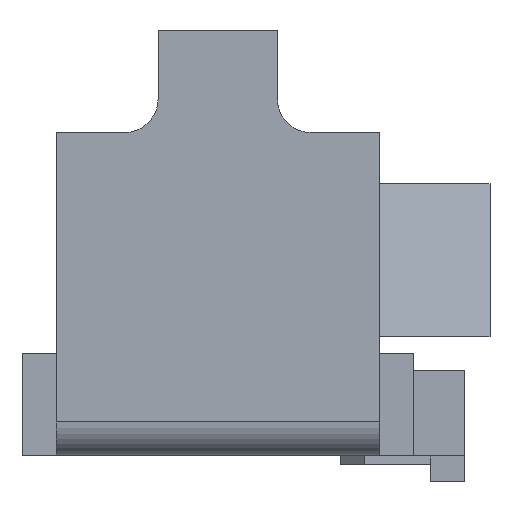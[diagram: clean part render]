
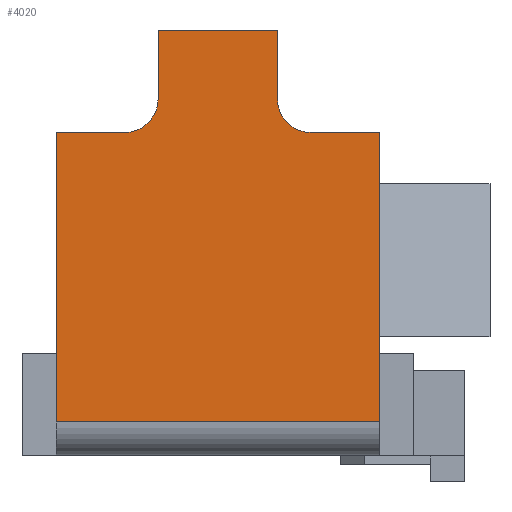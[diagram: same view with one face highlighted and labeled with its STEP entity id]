
A CAD part, front view. The second image highlights one B-rep face of the part: STEP entity #4020.
In plain terms, the highlighted planar face has unit normal (0, -1, 0).
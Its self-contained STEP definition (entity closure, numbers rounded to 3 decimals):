
#22 = LINE ( 'NONE', #2968, #1862 ) ;
#39 = EDGE_CURVE ( 'NONE', #403, #1292, #1104, .T. ) ;
#48 = VECTOR ( 'NONE', #306, 1000. ) ;
#165 = DIRECTION ( 'NONE',  ( 1., 0., 0. ) ) ;
#183 = CIRCLE ( 'NONE', #1349, 2. ) ;
#226 = DIRECTION ( 'NONE',  ( 0., 0., 1. ) ) ;
#299 = LINE ( 'NONE', #3372, #2748 ) ;
#306 = DIRECTION ( 'NONE',  ( 1., 0., 0. ) ) ;
#320 = CARTESIAN_POINT ( 'NONE',  ( -36.071, -41., 0. ) ) ;
#332 = PLANE ( 'NONE',  #425 ) ;
#376 = VECTOR ( 'NONE', #2444, 1000. ) ;
#384 = VECTOR ( 'NONE', #4134, 1000. ) ;
#403 = VERTEX_POINT ( 'NONE', #2863 ) ;
#410 = CARTESIAN_POINT ( 'NONE',  ( 9.5, -41., 0. ) ) ;
#425 = AXIS2_PLACEMENT_3D ( 'NONE', #320, #2218, #2236 ) ;
#471 = LINE ( 'NONE', #2459, #376 ) ;
#585 = DIRECTION ( 'NONE',  ( 0., 1., 0. ) ) ;
#745 = VECTOR ( 'NONE', #1366, 1000. ) ;
#783 = ORIENTED_EDGE ( 'NONE', *, *, #3218, .F. ) ;
#822 = CARTESIAN_POINT ( 'NONE',  ( 3.5, -41., 25. ) ) ;
#883 = DIRECTION ( 'NONE',  ( 0., 0., -1. ) ) ;
#921 = ORIENTED_EDGE ( 'NONE', *, *, #1971, .F. ) ;
#928 = CARTESIAN_POINT ( 'NONE',  ( 3.5, -41., 19. ) ) ;
#1104 = LINE ( 'NONE', #1212, #48 ) ;
#1212 = CARTESIAN_POINT ( 'NONE',  ( -9.5, -41., 19. ) ) ;
#1239 = VECTOR ( 'NONE', #3632, 1000. ) ;
#1270 = VERTEX_POINT ( 'NONE', #2872 ) ;
#1284 = FACE_OUTER_BOUND ( 'NONE', #1832, .T. ) ;
#1292 = VERTEX_POINT ( 'NONE', #2214 ) ;
#1349 = AXIS2_PLACEMENT_3D ( 'NONE', #2555, #2614, #1955 ) ;
#1366 = DIRECTION ( 'NONE',  ( 0., 0., -1. ) ) ;
#1511 = CARTESIAN_POINT ( 'NONE',  ( 5.5, -41., 21. ) ) ;
#1690 = VERTEX_POINT ( 'NONE', #3047 ) ;
#1700 = VECTOR ( 'NONE', #3795, 1000. ) ;
#1832 = EDGE_LOOP ( 'NONE', ( #2795, #2303, #3924, #3721, #2713, #2492, #921, #3555, #783, #3941 ) ) ;
#1862 = VECTOR ( 'NONE', #165, 1000. ) ;
#1913 = AXIS2_PLACEMENT_3D ( 'NONE', #1511, #585, #883 ) ;
#1927 = CARTESIAN_POINT ( 'NONE',  ( -36.071, -41., 25. ) ) ;
#1955 = DIRECTION ( 'NONE',  ( 0., 0., -1. ) ) ;
#1971 = EDGE_CURVE ( 'NONE', #3153, #1690, #2561, .T. ) ;
#1979 = CARTESIAN_POINT ( 'NONE',  ( 3.5, -41., 25. ) ) ;
#2160 = CARTESIAN_POINT ( 'NONE',  ( 3.5, -41., 21. ) ) ;
#2214 = CARTESIAN_POINT ( 'NONE',  ( -5.5, -41., 19. ) ) ;
#2218 = DIRECTION ( 'NONE',  ( 0., -1., 0. ) ) ;
#2220 = CARTESIAN_POINT ( 'NONE',  ( -9.5, -41., 2. ) ) ;
#2236 = DIRECTION ( 'NONE',  ( 0., 0., -1. ) ) ;
#2303 = ORIENTED_EDGE ( 'NONE', *, *, #3144, .T. ) ;
#2333 = CARTESIAN_POINT ( 'NONE',  ( 9.5, -41., 2. ) ) ;
#2367 = EDGE_CURVE ( 'NONE', #3140, #3233, #22, .T. ) ;
#2444 = DIRECTION ( 'NONE',  ( 0., 0., 1. ) ) ;
#2459 = CARTESIAN_POINT ( 'NONE',  ( -9.5, -41., 0. ) ) ;
#2474 = EDGE_CURVE ( 'NONE', #3140, #403, #471, .T. ) ;
#2492 = ORIENTED_EDGE ( 'NONE', *, *, #4132, .F. ) ;
#2555 = CARTESIAN_POINT ( 'NONE',  ( -5.5, -41., 21. ) ) ;
#2561 = LINE ( 'NONE', #928, #1700 ) ;
#2614 = DIRECTION ( 'NONE',  ( 0., 1., 0. ) ) ;
#2636 = LINE ( 'NONE', #1927, #384 ) ;
#2713 = ORIENTED_EDGE ( 'NONE', *, *, #2367, .T. ) ;
#2748 = VECTOR ( 'NONE', #226, 1000. ) ;
#2780 = EDGE_CURVE ( 'NONE', #2941, #1270, #299, .T. ) ;
#2795 = ORIENTED_EDGE ( 'NONE', *, *, #2780, .F. ) ;
#2848 = CARTESIAN_POINT ( 'NONE',  ( -3.5, -41., 21. ) ) ;
#2863 = CARTESIAN_POINT ( 'NONE',  ( -9.5, -41., 19. ) ) ;
#2864 = VERTEX_POINT ( 'NONE', #822 ) ;
#2872 = CARTESIAN_POINT ( 'NONE',  ( -3.5, -41., 25. ) ) ;
#2941 = VERTEX_POINT ( 'NONE', #2848 ) ;
#2968 = CARTESIAN_POINT ( 'NONE',  ( -36.071, -41., 2. ) ) ;
#2973 = CIRCLE ( 'NONE', #1913, 2. ) ;
#2991 = VERTEX_POINT ( 'NONE', #2160 ) ;
#3047 = CARTESIAN_POINT ( 'NONE',  ( 9.5, -41., 19. ) ) ;
#3140 = VERTEX_POINT ( 'NONE', #2220 ) ;
#3144 = EDGE_CURVE ( 'NONE', #2941, #1292, #183, .T. ) ;
#3153 = VERTEX_POINT ( 'NONE', #3857 ) ;
#3218 = EDGE_CURVE ( 'NONE', #2864, #2991, #3486, .T. ) ;
#3233 = VERTEX_POINT ( 'NONE', #2333 ) ;
#3372 = CARTESIAN_POINT ( 'NONE',  ( -3.5, -41., 25. ) ) ;
#3486 = LINE ( 'NONE', #1979, #745 ) ;
#3555 = ORIENTED_EDGE ( 'NONE', *, *, #3682, .T. ) ;
#3632 = DIRECTION ( 'NONE',  ( 0., 0., -1. ) ) ;
#3682 = EDGE_CURVE ( 'NONE', #3153, #2991, #2973, .T. ) ;
#3686 = LINE ( 'NONE', #410, #1239 ) ;
#3721 = ORIENTED_EDGE ( 'NONE', *, *, #2474, .F. ) ;
#3795 = DIRECTION ( 'NONE',  ( 1., 0., 0. ) ) ;
#3857 = CARTESIAN_POINT ( 'NONE',  ( 5.5, -41., 19. ) ) ;
#3866 = EDGE_CURVE ( 'NONE', #1270, #2864, #2636, .T. ) ;
#3924 = ORIENTED_EDGE ( 'NONE', *, *, #39, .F. ) ;
#3941 = ORIENTED_EDGE ( 'NONE', *, *, #3866, .F. ) ;
#4020 = ADVANCED_FACE ( 'NONE', ( #1284 ), #332, .T. ) ;
#4132 = EDGE_CURVE ( 'NONE', #1690, #3233, #3686, .T. ) ;
#4134 = DIRECTION ( 'NONE',  ( 1., 0., 0. ) ) ;
